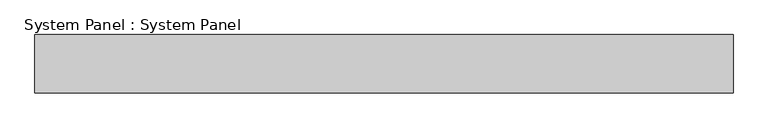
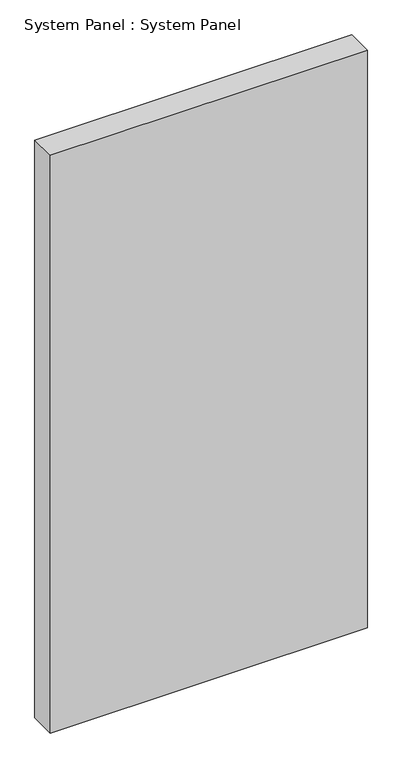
"""IFC4 building model written with IfcOpenShell, lengths in millimetres: plate geometry, System Panel : System Panel."""

from ifc_helpers import new_model, si_unit, origin, origin_with_axes, place, context, project, spatial, polyline, outline, extrude, source, transform, mapped, element, save


def system_panel_system_panel_499e53ce(model_context):
    return source(origin(), model_context, "Body", "SweptSolid", [
        extrude(outline(polyline([(608.5596948, -50.8), (-608.5596948, -50.8), (-608.5596948, 50.8), (608.5596948, 50.8), (608.5596948, -50.8)])), origin_with_axes(), (0.0, 0.0, 1.0), 2343.15),
    ])


if __name__ == "__main__":
    model = new_model("IFC4")
    model_context = context("Model", 3, world=origin())
    ifc_project = project(units=[si_unit("LENGTHUNIT", "METRE", prefix="MILLI")], contexts=[model_context])
    site = spatial("IfcSite", under=ifc_project)
    building = spatial("IfcBuilding", under=site)
    placement = place(None, origin())
    system_panel_system_panel_shape = system_panel_system_panel_499e53ce(model_context)
    element("IfcPlate", 1, ObjectType="System Panel : System Panel", at=placement, inside=building, context=model_context, shape_type="MappedRepresentation", body=[
        mapped(system_panel_system_panel_shape, transform((0.0, 0.0, 0.0), x_axis=(1.0, 0.0, 0.0), y_axis=(0.0, 1.0, 0.0), z_axis=(0.0, 0.0, 1.0))),
    ])
    save(model, "model.ifc")
